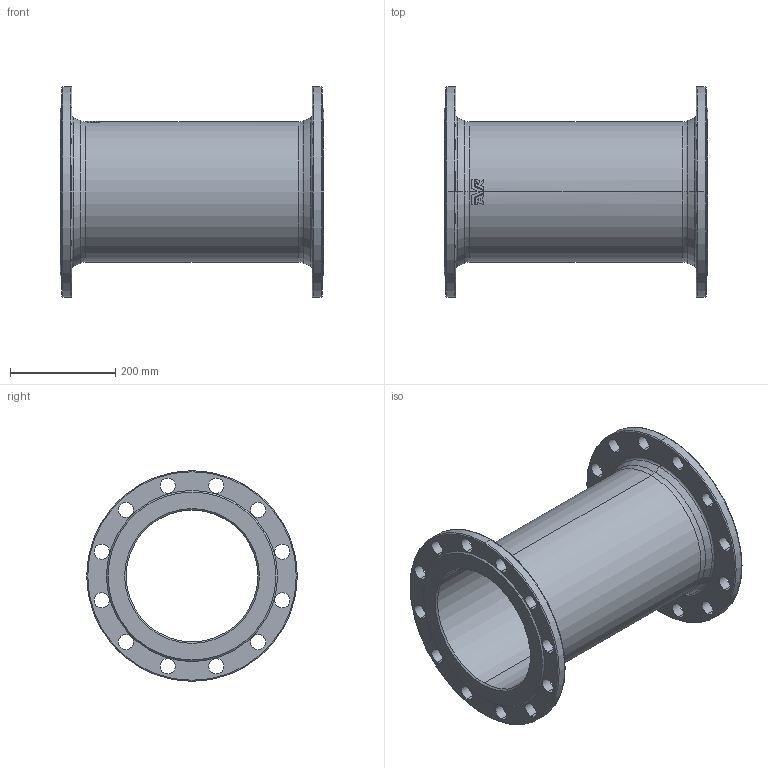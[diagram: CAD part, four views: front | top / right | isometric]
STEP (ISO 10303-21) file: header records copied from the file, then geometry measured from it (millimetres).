
FILE_DESCRIPTION (( 'STEP AP203' ), '1' );
FILE_NAME ('O_712_4810_DN250_1X_REV01.step', '2021-12-01T10:46:18', ( '' ), ( '' ), 'SwSTEP 2.0', 'SolidWorks 2019', '' );
FILE_SCHEMA (( 'CONFIG_CONTROL_DESIGN' ));
Length unit declared in the file: millimetre
Products named in the file (1): O_712_4810_DN250_1X_REV01
Bounding box: 500 x 400 x 400 mm (x, y, z)
Volume: 5921701 mm3; surface area: 1107563 mm2
Topology: 1 solids, 1 shells, 132 faces, 343 edges, 220 vertices
Faces by surface type: cylinder 61, plane 26, bspline 17, torus 16, cone 12
Entity records: 4890 total; most frequent: CARTESIAN_POINT 1415, DIRECTION 735, ORIENTED_EDGE 686, EDGE_CURVE 343, AXIS2_PLACEMENT_3D 310, VERTEX_POINT 220, CIRCLE 194, EDGE_LOOP 189
